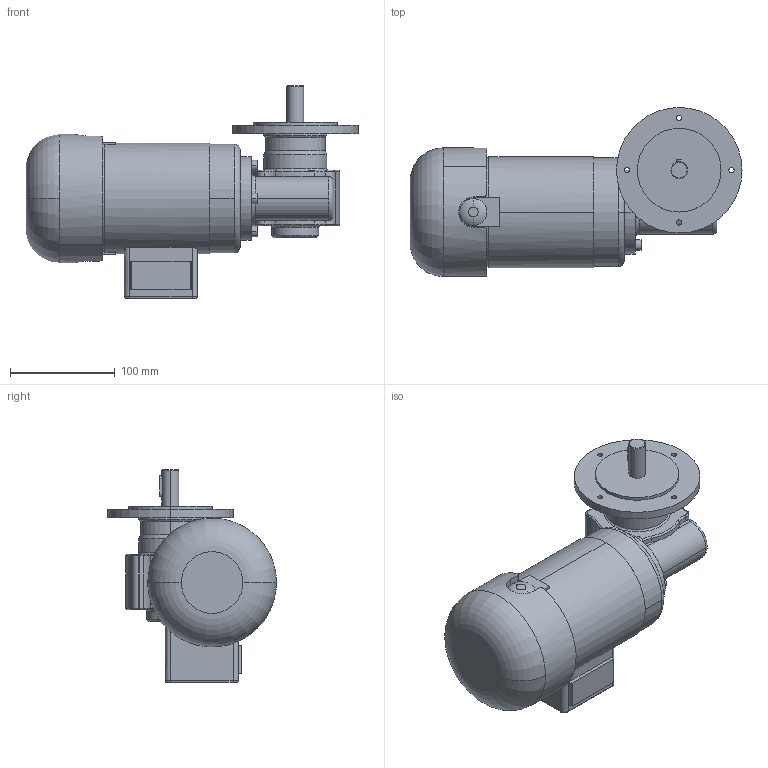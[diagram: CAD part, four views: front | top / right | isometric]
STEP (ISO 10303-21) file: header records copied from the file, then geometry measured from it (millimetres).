
FILE_DESCRIPTION(('OneSpaceDesigner STEP Export'),'2;1');
FILE_NAME('KGOG61-62_GF146_H.stp','2008-08-19T11:33:01',(''),(''),'OneSpace Designer STEP processor (Jan. 2003) for AP214(CD)(Solid Model)','OneSpace Designer 12.01D 09-Jul-2004 (C) CoCreate Software GmbH','');
FILE_SCHEMA(('AUTOMOTIVE_DESIGN_CC2 {1 2 10303 214 -1 1 5 1}'));
Length unit declared in the file: millimetre
Products named in the file (2): KGOG61-62_GF146_H
Assembly tree (1 placements, depth 2):
  KGOG61-62_GF146_H
    KGOG61-62_GF146_H
Bounding box: 317.5 x 161.5 x 203.5 mm (x, y, z)
Volume: 2840063.5 mm3; surface area: 165828.3 mm2
Topology: 1 solids, 1 shells, 240 faces, 579 edges, 355 vertices
Faces by surface type: cylinder 97, torus 68, plane 50, cone 12, bspline 9, extrusion 4
Entity records: 11045 total; most frequent: CARTESIAN_POINT 6010, ORIENTED_EDGE 1158, DIRECTION 898, EDGE_CURVE 579, AXIS2_PLACEMENT_3D 357, VERTEX_POINT 355, EDGE_LOOP 262, FACE_OUTER_BOUND 240
